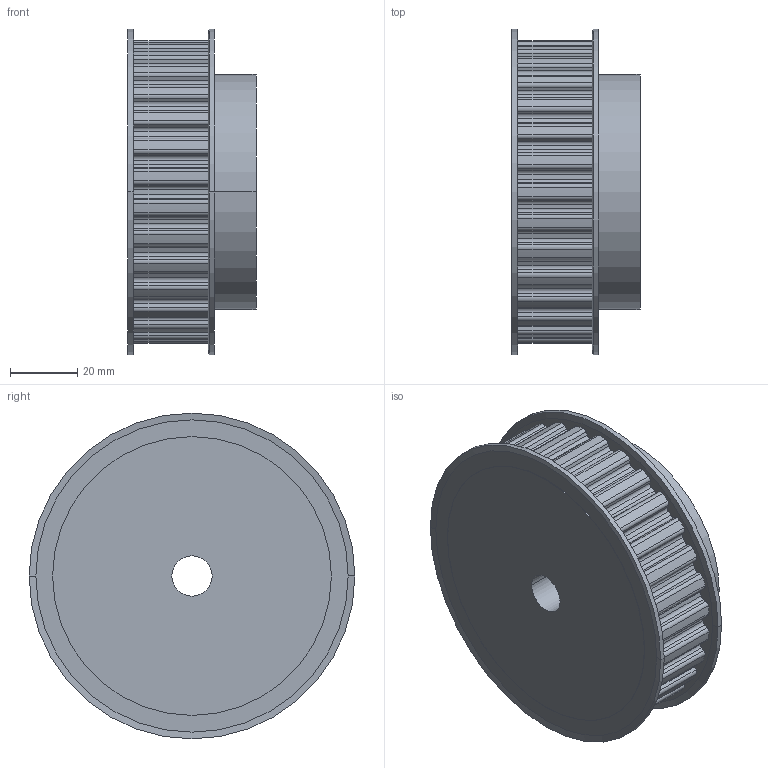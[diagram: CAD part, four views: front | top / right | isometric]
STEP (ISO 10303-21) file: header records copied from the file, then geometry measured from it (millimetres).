
FILE_DESCRIPTION( ( '' ), '1' );
FILE_NAME( 'C:/Users/Stangenbergd/Documents/CAD_Step/1/18223000.stp', '2021-10-19T10:37:53', ( '' ), ( '' ), ' ', ' ', ' ' );
FILE_SCHEMA( ( 'CONFIG_CONTROL_DESIGN' ) );
Length unit declared in the file: millimetre
Products named in the file (1): 1
Bounding box: 38.13 x 97 x 97 mm (x, y, z)
Volume: 202133.9 mm3; surface area: 30477.3 mm2
Topology: 1 solids, 1 shells, 267 faces, 772 edges, 512 vertices
Faces by surface type: cylinder 162, plane 97, cone 8
Entity records: 8962 total; most frequent: DIRECTION 1640, CARTESIAN_POINT 1552, ORIENTED_EDGE 1544, EDGE_CURVE 772, AXIS2_PLACEMENT_3D 600, VERTEX_POINT 512, LINE 440, VECTOR 440
